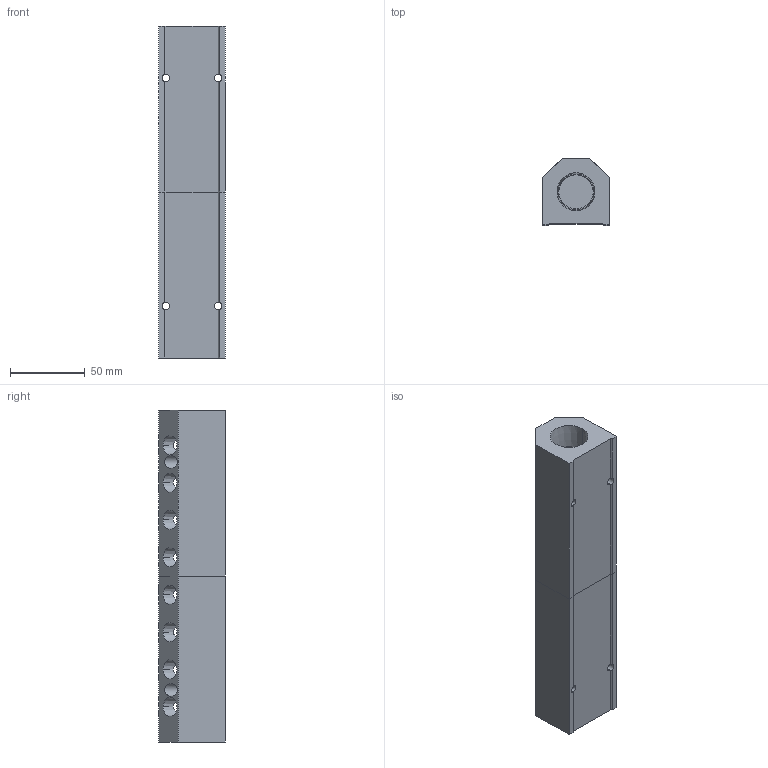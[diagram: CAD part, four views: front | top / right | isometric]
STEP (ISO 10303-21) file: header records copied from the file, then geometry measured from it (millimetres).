
FILE_DESCRIPTION (( 'STEP AP214' ), '1' );
FILE_NAME ('ALM8BCD-N4N12-222RB.step', '2022-02-06T14:18:55', ( '' ), ( '' ), 'SwSTEP 2.0', 'SolidWorks 2020', '' );
FILE_SCHEMA (( 'AUTOMOTIVE_DESIGN' ));
Length unit declared in the file: millimetre
Products named in the file (1): ALM8BCD-N4N12-222RB
Bounding box: 44.5 x 44.5 x 222 mm (x, y, z)
Volume: 263765.2 mm3; surface area: 66354.6 mm2
Topology: 2 solids, 2 shells, 412 faces, 1145 edges, 758 vertices
Faces by surface type: plane 240, bspline 82, cone 62, cylinder 28
Entity records: 24028 total; most frequent: CARTESIAN_POINT 10124, ORIENTED_EDGE 2290, DIRECTION 1615, EDGE_CURVE 1145, VERTEX_POINT 758, VECTOR 737, LINE 737, EDGE_LOOP 489
